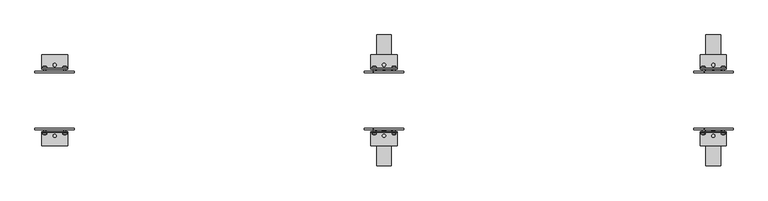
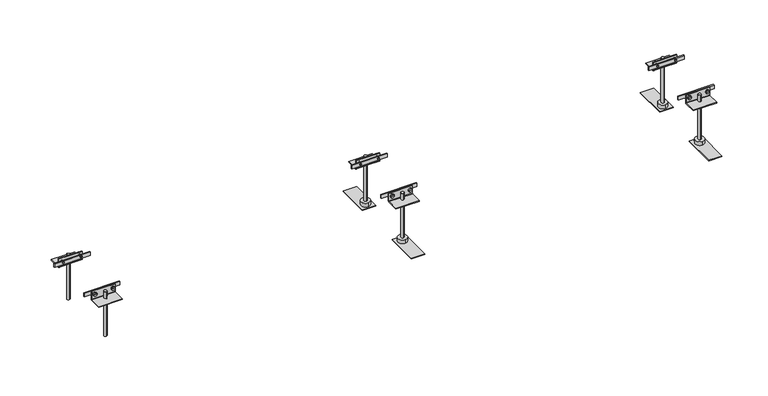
"""IFC4 building model written with IfcOpenShell, lengths in millimetres: proxy geometry, Electrical_Installation_Hager_BKF-Trunking-System-With-Flexible-Screed-Casing-For-Dry-Cleaned-Floors : Nominal Size 150  Length 2.4 m."""

from ifc_helpers import new_model, si_unit, point, frame, frame_2d, origin, place, context, project, spatial, polyline, circle_curve, ellipse_curve, trimmed, segment, composite_curve, outline, extrude, source, transform, mapped, element, save
from ifc_brep_helpers import plane_surface, cylinder_surface, revolved_surface, advanced_brep


def electrical_fixtures_9ab802ce(model_context):
    return source(origin(), model_context, "Body", "SolidModel", [
        advanced_brep(
        [(1629.0575247, -81.6418922, 3.3), (1619.4769168, -81.6418922, 3.3), (1619.4769168, -79.7, 3.3), (1629.0575247, -79.7, 3.3), (1621.7042517, -79.7, 3.3), (1626.8301898, -79.7, 3.3), (1621.7042517, -67.7, 3.3), (1626.8301898, -67.7, 3.3), (1624.2672208, -67.7, 3.3), (1624.2672208, -83.3479209, 3.3)],
        [
            (0, 1, circle_curve(frame((1624.2672208, -81.6418922, 3.3), z_axis=(0.0, 1.0, 0.0), x_axis=(-1.0, 0.0, 0.0)), 4.790304)),
            (1, 2),
            (2, 3, circle_curve(frame((1624.2672208, -79.7, 3.3), z_axis=(0.0, -1.0, 0.0), x_axis=(-1.0, 0.0, 0.0)), 4.790304)),
            (3, 0),
            (1, 0, circle_curve(frame((1624.2672208, -81.6418922, 3.3), z_axis=(0.0, 1.0, 0.0), x_axis=(-1.0, 0.0, 0.0)), 4.790304)),
            (3, 2, circle_curve(frame((1624.2672208, -79.7, 3.3), z_axis=(0.0, -1.0, 0.0), x_axis=(-1.0, 0.0, 0.0)), 4.790304)),
            (2, 4),
            (4, 5, circle_curve(frame((1624.2672208, -79.7, 3.3), z_axis=(0.0, -1.0, 0.0), x_axis=(-1.0, 0.0, 0.0)), 2.562969)),
            (5, 3),
            (5, 4, circle_curve(frame((1624.2672208, -79.7, 3.3), z_axis=(0.0, -1.0, 0.0), x_axis=(-1.0, 0.0, 0.0)), 2.562969)),
            (4, 6),
            (6, 7, circle_curve(frame((1624.2672208, -67.7, 3.3), z_axis=(0.0, -1.0, 0.0), x_axis=(-1.0, 0.0, 0.0)), 2.562969)),
            (7, 5),
            (7, 6, circle_curve(frame((1624.2672208, -67.7, 3.3), z_axis=(0.0, -1.0, 0.0), x_axis=(-1.0, 0.0, 0.0)), 2.562969)),
            (6, 8),
            (8, 7),
            (9, 1, circle_curve(frame((1624.2353142, -75.8592246, 3.3), z_axis=(0.0, 0.0, -1.0), x_axis=(-1.0, 0.0, 0.0)), 7.4887643)),
            (0, 9, circle_curve(frame((1624.2991274, -75.8592246, 3.3), z_axis=(0.0, 0.0, -1.0), x_axis=(1.0, 0.0, 0.0)), 7.4887643)),
        ],
        [
            cylinder_surface(frame((1624.2672208, -79.2950786, 3.3), z_axis=(0.0, -1.0, 0.0), x_axis=(-1.0, 0.0, 0.0)), 4.790304),
            plane_surface(frame((1624.2672208, -79.7, 3.3), z_axis=(0.0, 1.0, 0.0), x_axis=(-1.0, 0.0, 0.0))),
            cylinder_surface(frame((1624.2672208, -79.2950786, 3.3), z_axis=(0.0, -1.0, 0.0), x_axis=(-1.0, 0.0, 0.0)), 2.562969),
            plane_surface(frame((1624.2672208, -67.7, 3.3), z_axis=(0.0, 1.0, 0.0), x_axis=(-1.0, 0.0, 0.0))),
            revolved_surface(trimmed(ellipse_curve(frame((1624.2353142, -75.8592246, 3.3), z_axis=(0.0, 0.0, 1.0), x_axis=(-1.0, 0.0, 0.0)), 7.4887643, 7.4887643), [point((1619.4769168, -81.6418922, 3.3))], [point((1624.2672208, -83.3479209, 3.3))], True, "CARTESIAN"), (1624.2672208, -79.2950786, 3.3), (0.0, -1.0, 0.0)),
        ],
        [
            (0, [[1, 2, 3, 4]]),
            (0, [[5, -4, 6, -2]]),
            (1, [[-3, 7, 8, 9]]),
            (1, [[-6, -9, 10, -7]]),
            (2, [[-8, 11, 12, 13]]),
            (2, [[-10, -13, 14, -11]]),
            (3, [[-12, 15, 16]]),
            (3, [[-14, -16, -15]]),
            (4, [[17, -1, 18]]),
            (4, [[-18, -5, -17]]),
        ],
    ),
        advanced_brep(
        [(1580.790304, -81.6418922, 3.3), (1571.209696, -81.6418922, 3.3), (1571.209696, -79.7, 3.3), (1580.790304, -79.7, 3.3), (1573.437031, -79.7, 3.3), (1578.562969, -79.7, 3.3), (1573.437031, -67.7, 3.3), (1578.562969, -67.7, 3.3), (1576.0, -67.7, 3.3), (1576.0, -83.3479209, 3.3)],
        [
            (0, 1, circle_curve(frame((1576.0, -81.6418922, 3.3), z_axis=(0.0, 1.0, 0.0), x_axis=(-1.0, 0.0, 0.0)), 4.790304)),
            (1, 2),
            (2, 3, circle_curve(frame((1576.0, -79.7, 3.3), z_axis=(0.0, -1.0, 0.0), x_axis=(-1.0, 0.0, 0.0)), 4.790304)),
            (3, 0),
            (1, 0, circle_curve(frame((1576.0, -81.6418922, 3.3), z_axis=(0.0, 1.0, 0.0), x_axis=(-1.0, 0.0, 0.0)), 4.790304)),
            (3, 2, circle_curve(frame((1576.0, -79.7, 3.3), z_axis=(0.0, -1.0, 0.0), x_axis=(-1.0, 0.0, 0.0)), 4.790304)),
            (2, 4),
            (4, 5, circle_curve(frame((1576.0, -79.7, 3.3), z_axis=(0.0, -1.0, 0.0), x_axis=(-1.0, 0.0, 0.0)), 2.562969)),
            (5, 3),
            (5, 4, circle_curve(frame((1576.0, -79.7, 3.3), z_axis=(0.0, -1.0, 0.0), x_axis=(-1.0, 0.0, 0.0)), 2.562969)),
            (4, 6),
            (6, 7, circle_curve(frame((1576.0, -67.7, 3.3), z_axis=(0.0, -1.0, 0.0), x_axis=(-1.0, 0.0, 0.0)), 2.562969)),
            (7, 5),
            (7, 6, circle_curve(frame((1576.0, -67.7, 3.3), z_axis=(0.0, -1.0, 0.0), x_axis=(-1.0, 0.0, 0.0)), 2.562969)),
            (6, 8),
            (8, 7),
            (9, 1, circle_curve(frame((1575.9680934, -75.8592246, 3.3), z_axis=(0.0, 0.0, -1.0), x_axis=(-1.0, 0.0, 0.0)), 7.4887643)),
            (0, 9, circle_curve(frame((1576.0319066, -75.8592246, 3.3), z_axis=(0.0, 0.0, -1.0), x_axis=(1.0, 0.0, 0.0)), 7.4887643)),
        ],
        [
            cylinder_surface(frame((1576.0, -79.2950786, 3.3), z_axis=(0.0, -1.0, 0.0), x_axis=(-1.0, 0.0, 0.0)), 4.790304),
            plane_surface(frame((1576.0, -79.7, 3.3), z_axis=(0.0, 1.0, 0.0), x_axis=(-1.0, 0.0, 0.0))),
            cylinder_surface(frame((1576.0, -79.2950786, 3.3), z_axis=(0.0, -1.0, 0.0), x_axis=(-1.0, 0.0, 0.0)), 2.562969),
            plane_surface(frame((1576.0, -67.7, 3.3), z_axis=(0.0, 1.0, 0.0), x_axis=(-1.0, 0.0, 0.0))),
            revolved_surface(trimmed(ellipse_curve(frame((1575.9680934, -75.8592246, 3.3), z_axis=(0.0, 0.0, 1.0), x_axis=(-1.0, 0.0, 0.0)), 7.4887643, 7.4887643), [point((1571.209696, -81.6418922, 3.3))], [point((1576.0, -83.3479209, 3.3))], True, "CARTESIAN"), (1576.0, -79.2950786, 3.3), (0.0, -1.0, 0.0)),
        ],
        [
            (0, [[1, 2, 3, 4]]),
            (0, [[5, -4, 6, -2]]),
            (1, [[-3, 7, 8, 9]]),
            (1, [[-6, -9, 10, -7]]),
            (2, [[-8, 11, 12, 13]]),
            (2, [[-10, -13, 14, -11]]),
            (3, [[-12, 15, 16]]),
            (3, [[-14, -16, -15]]),
            (4, [[17, -1, 18]]),
            (4, [[-18, -5, -17]]),
        ],
    ),
        advanced_brep(
        [(1629.0575247, 79.7, 3.3), (1619.4769168, 79.7, 3.3), (1619.4769168, 81.6418922, 3.3), (1629.0575247, 81.6418922, 3.3), (1626.8301898, 79.7, 3.3), (1621.7042517, 79.7, 3.3), (1626.8301898, 67.7, 3.3), (1621.7042517, 67.7, 3.3), (1624.2672208, 67.7, 3.3), (1624.2672208, 83.3479209, 3.3)],
        [
            (0, 1, circle_curve(frame((1624.2672208, 79.7, 3.3), z_axis=(0.0, 1.0, 0.0), x_axis=(-1.0, 0.0, 0.0)), 4.790304)),
            (1, 2),
            (2, 3, circle_curve(frame((1624.2672208, 81.6418922, 3.3), z_axis=(0.0, -1.0, 0.0), x_axis=(-1.0, 0.0, 0.0)), 4.790304)),
            (3, 0),
            (1, 0, circle_curve(frame((1624.2672208, 79.7, 3.3), z_axis=(0.0, 1.0, 0.0), x_axis=(-1.0, 0.0, 0.0)), 4.790304)),
            (3, 2, circle_curve(frame((1624.2672208, 81.6418922, 3.3), z_axis=(0.0, -1.0, 0.0), x_axis=(-1.0, 0.0, 0.0)), 4.790304)),
            (4, 5, circle_curve(frame((1624.2672208, 79.7, 3.3), z_axis=(0.0, 1.0, 0.0), x_axis=(-1.0, 0.0, 0.0)), 2.562969)),
            (5, 1),
            (0, 4),
            (5, 4, circle_curve(frame((1624.2672208, 79.7, 3.3), z_axis=(0.0, 1.0, 0.0), x_axis=(-1.0, 0.0, 0.0)), 2.562969)),
            (6, 7, circle_curve(frame((1624.2672208, 67.7, 3.3), z_axis=(0.0, 1.0, 0.0), x_axis=(-1.0, 0.0, 0.0)), 2.562969)),
            (7, 5),
            (4, 6),
            (7, 6, circle_curve(frame((1624.2672208, 67.7, 3.3), z_axis=(0.0, 1.0, 0.0), x_axis=(-1.0, 0.0, 0.0)), 2.562969)),
            (8, 7),
            (6, 8),
            (2, 9, circle_curve(frame((1624.2353142, 75.8592246, 3.3), z_axis=(0.0, 0.0, -1.0), x_axis=(-1.0, 0.0, 0.0)), 7.4887643)),
            (9, 3, circle_curve(frame((1624.2991274, 75.8592246, 3.3), z_axis=(0.0, 0.0, -1.0), x_axis=(1.0, 0.0, 0.0)), 7.4887643)),
        ],
        [
            cylinder_surface(frame((1624.2672208, 79.2950786, 3.3), z_axis=(0.0, -1.0, 0.0), x_axis=(-1.0, 0.0, 0.0)), 4.790304),
            plane_surface(frame((1624.2672208, 79.7, 3.3), z_axis=(0.0, -1.0, 0.0), x_axis=(-1.0, 0.0, 0.0))),
            cylinder_surface(frame((1624.2672208, 79.2950786, 3.3), z_axis=(0.0, -1.0, 0.0), x_axis=(-1.0, 0.0, 0.0)), 2.562969),
            plane_surface(frame((1624.2672208, 67.7, 3.3), z_axis=(0.0, -1.0, 0.0), x_axis=(-1.0, 0.0, 0.0))),
            revolved_surface(trimmed(ellipse_curve(frame((1624.2353142, 75.8592246, 3.3), z_axis=(0.0, 0.0, 1.0), x_axis=(-1.0, 0.0, 0.0)), 7.4887643, 7.4887643), [point((1624.2672208, 83.3479209, 3.3))], [point((1619.4769168, 81.6418922, 3.3))], True, "CARTESIAN"), (1624.2672208, 79.2950786, 3.3), (0.0, -1.0, 0.0)),
        ],
        [
            (0, [[1, 2, 3, 4]]),
            (0, [[5, -4, 6, -2]]),
            (1, [[7, 8, -1, 9]]),
            (1, [[10, -9, -5, -8]]),
            (2, [[11, 12, -7, 13]]),
            (2, [[14, -13, -10, -12]]),
            (3, [[15, -11, 16]]),
            (3, [[-16, -14, -15]]),
            (4, [[-3, 17, 18]]),
            (4, [[-6, -18, -17]]),
        ],
    ),
        advanced_brep(
        [(1580.790304, 79.7, 3.3), (1571.209696, 79.7, 3.3), (1571.209696, 81.6418922, 3.3), (1580.790304, 81.6418922, 3.3), (1578.562969, 79.7, 3.3), (1573.437031, 79.7, 3.3), (1578.562969, 67.7, 3.3), (1573.437031, 67.7, 3.3), (1576.0, 67.7, 3.3), (1576.0, 83.3479209, 3.3)],
        [
            (0, 1, circle_curve(frame((1576.0, 79.7, 3.3), z_axis=(0.0, 1.0, 0.0), x_axis=(-1.0, 0.0, 0.0)), 4.790304)),
            (1, 2),
            (2, 3, circle_curve(frame((1576.0, 81.6418922, 3.3), z_axis=(0.0, -1.0, 0.0), x_axis=(-1.0, 0.0, 0.0)), 4.790304)),
            (3, 0),
            (1, 0, circle_curve(frame((1576.0, 79.7, 3.3), z_axis=(0.0, 1.0, 0.0), x_axis=(-1.0, 0.0, 0.0)), 4.790304)),
            (3, 2, circle_curve(frame((1576.0, 81.6418922, 3.3), z_axis=(0.0, -1.0, 0.0), x_axis=(-1.0, 0.0, 0.0)), 4.790304)),
            (4, 5, circle_curve(frame((1576.0, 79.7, 3.3), z_axis=(0.0, 1.0, 0.0), x_axis=(-1.0, 0.0, 0.0)), 2.562969)),
            (5, 1),
            (0, 4),
            (5, 4, circle_curve(frame((1576.0, 79.7, 3.3), z_axis=(0.0, 1.0, 0.0), x_axis=(-1.0, 0.0, 0.0)), 2.562969)),
            (6, 7, circle_curve(frame((1576.0, 67.7, 3.3), z_axis=(0.0, 1.0, 0.0), x_axis=(-1.0, 0.0, 0.0)), 2.562969)),
            (7, 5),
            (4, 6),
            (7, 6, circle_curve(frame((1576.0, 67.7, 3.3), z_axis=(0.0, 1.0, 0.0), x_axis=(-1.0, 0.0, 0.0)), 2.562969)),
            (8, 7),
            (6, 8),
            (2, 9, circle_curve(frame((1575.9680934, 75.8592246, 3.3), z_axis=(0.0, 0.0, -1.0), x_axis=(-1.0, 0.0, 0.0)), 7.4887643)),
            (9, 3, circle_curve(frame((1576.0319066, 75.8592246, 3.3), z_axis=(0.0, 0.0, -1.0), x_axis=(1.0, 0.0, 0.0)), 7.4887643)),
        ],
        [
            cylinder_surface(frame((1576.0, 79.2950786, 3.3), z_axis=(0.0, -1.0, 0.0), x_axis=(-1.0, 0.0, 0.0)), 4.790304),
            plane_surface(frame((1576.0, 79.7, 3.3), z_axis=(0.0, -1.0, 0.0), x_axis=(-1.0, 0.0, 0.0))),
            cylinder_surface(frame((1576.0, 79.2950786, 3.3), z_axis=(0.0, -1.0, 0.0), x_axis=(-1.0, 0.0, 0.0)), 2.562969),
            plane_surface(frame((1576.0, 67.7, 3.3), z_axis=(0.0, -1.0, 0.0), x_axis=(-1.0, 0.0, 0.0))),
            revolved_surface(trimmed(ellipse_curve(frame((1575.9680934, 75.8592246, 3.3), z_axis=(0.0, 0.0, 1.0), x_axis=(-1.0, 0.0, 0.0)), 7.4887643, 7.4887643), [point((1576.0, 83.3479209, 3.3))], [point((1571.209696, 81.6418922, 3.3))], True, "CARTESIAN"), (1576.0, 79.2950786, 3.3), (0.0, -1.0, 0.0)),
        ],
        [
            (0, [[1, 2, 3, 4]]),
            (0, [[5, -4, 6, -2]]),
            (1, [[7, 8, -1, 9]]),
            (1, [[10, -9, -5, -8]]),
            (2, [[11, 12, -7, 13]]),
            (2, [[14, -13, -10, -12]]),
            (3, [[15, -11, 16]]),
            (3, [[-16, -14, -15]]),
            (4, [[-3, 17, 18]]),
            (4, [[-6, -18, -17]]),
        ],
    ),
        extrude(outline(polyline([(1552.0, 67.7), (1552.0, 70.7), (1648.0, 70.7), (1648.0, 67.7), (1552.0, 67.7)])), frame((0.0, 0.0, -1.7), z_axis=(0.0, 0.0, 1.0), x_axis=(1.0, 0.0, 0.0)), (0.0, 0.0, 1.0), 10.0),
        extrude(outline(polyline([(1552.0, -70.7), (1552.0, -67.7), (1648.0, -67.7), (1648.0, -70.7), (1552.0, -70.7)])), frame((0.0, 0.0, -1.7), z_axis=(0.0, 0.0, 1.0), x_axis=(1.0, 0.0, 0.0)), (0.0, 0.0, 1.0), 10.0),
        extrude(outline(composite_curve([segment(polyline([(75.6, 11.7), (77.6, 11.7), (77.6, -10.3088822)]), True, "CONTINUOUS"), segment(trimmed(circle_curve(frame_2d((78.5911178, -10.3088822)), 0.9911178), [point((77.6, -10.3088822))], [point((78.5911178, -11.3))], True, "CARTESIAN"), True, "CONTINUOUS"), segment(polyline([(78.5911178, -11.3), (110.6, -11.3), (110.6, -13.3), (78.6002521, -13.3)]), True, "CONTINUOUS"), segment(trimmed(circle_curve(frame_2d((78.6002521, -10.2997479)), 3.0002521), [point((78.6002521, -13.3))], [point((75.6, -10.2997479))], False, "CARTESIAN"), True, "CONTINUOUS"), segment(polyline([(75.6, -10.2997479), (75.6, 11.7)]), True, "CONTINUOUS")], self_intersect=False)), frame((1568.3, 0.0, 0.0), z_axis=(1.0, 0.0, 0.0), x_axis=(0.0, 1.0, 0.0)), (0.0, 0.0, 1.0), 63.4),
        extrude(outline(composite_curve([segment(polyline([(-75.6, 11.7), (-75.6, -10.2997479)]), True, "CONTINUOUS"), segment(trimmed(circle_curve(frame_2d((-78.6002521, -10.2997479)), 3.0002521), [point((-75.6, -10.2997479))], [point((-78.6002521, -13.3))], False, "CARTESIAN"), True, "CONTINUOUS"), segment(polyline([(-78.6002521, -13.3), (-110.6, -13.3), (-110.6, -11.3), (-78.5911178, -11.3)]), True, "CONTINUOUS"), segment(trimmed(circle_curve(frame_2d((-78.5911178, -10.3088822)), 0.9911178), [point((-78.5911178, -11.3))], [point((-77.6, -10.3088822))], True, "CARTESIAN"), True, "CONTINUOUS"), segment(polyline([(-77.6, -10.3088822), (-77.6, 11.7), (-75.6, 11.7)]), True, "CONTINUOUS")], self_intersect=False)), frame((1568.3, 0.0, 0.0), z_axis=(1.0, 0.0, 0.0), x_axis=(0.0, 1.0, 0.0)), (0.0, 0.0, 1.0), 63.4),
        extrude(outline(composite_curve([segment(trimmed(circle_curve(frame_2d((1600.0, 86.1712378)), 3.9923162), [point((1600.0, 90.163554))], [point((1600.0, 82.1789216))], False, "CARTESIAN"), True, "CONTINUOUS"), segment(trimmed(circle_curve(frame_2d((1600.0, 86.1712378)), 3.9923162), [point((1600.0, 82.1789216))], [point((1600.0, 90.163554))], False, "CARTESIAN"), True, "CONTINUOUS")], self_intersect=False)), frame((0.0, 0.0, -119.0), z_axis=(0.0, 0.0, 1.0), x_axis=(1.0, 0.0, 0.0)), (0.0, 0.0, 1.0), 126.8),
        extrude(outline(composite_curve([segment(trimmed(circle_curve(frame_2d((1600.0, -86.0787011)), 3.991847), [point((1600.0, -82.0868541))], [point((1600.0, -90.0705482))], False, "CARTESIAN"), True, "CONTINUOUS"), segment(trimmed(circle_curve(frame_2d((1600.0, -86.0787011)), 3.991847), [point((1600.0, -90.0705482))], [point((1600.0, -82.0868541))], False, "CARTESIAN"), True, "CONTINUOUS")], self_intersect=False)), frame((0.0, 0.0, -119.0), z_axis=(0.0, 0.0, 1.0), x_axis=(1.0, 0.0, 0.0)), (0.0, 0.0, 1.0), 126.8),
        extrude(outline(composite_curve([segment(trimmed(circle_curve(frame_2d((1600.0, 86.1652527)), 12.0), [point((1600.0, 98.1652527))], [point((1600.0, 74.1652527))], False, "CARTESIAN"), True, "CONTINUOUS"), segment(trimmed(circle_curve(frame_2d((1600.0, 86.1652527)), 12.0), [point((1600.0, 74.1652527))], [point((1600.0, 98.1652527))], False, "CARTESIAN"), True, "CONTINUOUS")], self_intersect=False)), frame((0.0, 0.0, -129.7), z_axis=(0.0, 0.0, 1.0), x_axis=(1.0, 0.0, 0.0)), (0.0, 0.0, 1.0), 10.7),
        extrude(outline(composite_curve([segment(trimmed(circle_curve(frame_2d((1600.0, -86.112037)), 12.0), [point((1600.0, -74.112037))], [point((1600.0, -98.112037))], False, "CARTESIAN"), True, "CONTINUOUS"), segment(trimmed(circle_curve(frame_2d((1600.0, -86.112037)), 12.0), [point((1600.0, -98.112037))], [point((1600.0, -74.112037))], False, "CARTESIAN"), True, "CONTINUOUS")], self_intersect=False)), frame((0.0, 0.0, -129.7), z_axis=(0.0, 0.0, 1.0), x_axis=(1.0, 0.0, 0.0)), (0.0, 0.0, 1.0), 10.7),
        extrude(outline(polyline([(1618.0, 69.1), (1582.0, 69.1), (1582.0, 159.1), (1618.0, 159.1), (1618.0, 69.1)])), frame((0.0, 0.0, -131.2), z_axis=(0.0, 0.0, 1.0), x_axis=(1.0, 0.0, 0.0)), (0.0, 0.0, 1.0), 1.5),
        extrude(outline(polyline([(1618.0, -159.1), (1582.0, -159.1), (1582.0, -69.1), (1618.0, -69.1), (1618.0, -159.1)])), frame((0.0, 0.0, -131.2), z_axis=(0.0, 0.0, 1.0), x_axis=(1.0, 0.0, 0.0)), (0.0, 0.0, 1.0), 1.5),
        advanced_brep(
        [(829.0575247, -81.6418922, 3.3), (819.4769168, -81.6418922, 3.3), (819.4769168, -79.7, 3.3), (829.0575247, -79.7, 3.3), (821.7042517, -79.7, 3.3), (826.8301898, -79.7, 3.3), (821.7042517, -67.7, 3.3), (826.8301898, -67.7, 3.3), (824.2672208, -67.7, 3.3), (824.2672208, -83.3479209, 3.3)],
        [
            (0, 1, circle_curve(frame((824.2672208, -81.6418922, 3.3), z_axis=(0.0, 1.0, 0.0), x_axis=(-1.0, 0.0, 0.0)), 4.790304)),
            (1, 2),
            (2, 3, circle_curve(frame((824.2672208, -79.7, 3.3), z_axis=(0.0, -1.0, 0.0), x_axis=(-1.0, 0.0, 0.0)), 4.790304)),
            (3, 0),
            (1, 0, circle_curve(frame((824.2672208, -81.6418922, 3.3), z_axis=(0.0, 1.0, 0.0), x_axis=(-1.0, 0.0, 0.0)), 4.790304)),
            (3, 2, circle_curve(frame((824.2672208, -79.7, 3.3), z_axis=(0.0, -1.0, 0.0), x_axis=(-1.0, 0.0, 0.0)), 4.790304)),
            (2, 4),
            (4, 5, circle_curve(frame((824.2672208, -79.7, 3.3), z_axis=(0.0, -1.0, 0.0), x_axis=(-1.0, 0.0, 0.0)), 2.562969)),
            (5, 3),
            (5, 4, circle_curve(frame((824.2672208, -79.7, 3.3), z_axis=(0.0, -1.0, 0.0), x_axis=(-1.0, 0.0, 0.0)), 2.562969)),
            (4, 6),
            (6, 7, circle_curve(frame((824.2672208, -67.7, 3.3), z_axis=(0.0, -1.0, 0.0), x_axis=(-1.0, 0.0, 0.0)), 2.562969)),
            (7, 5),
            (7, 6, circle_curve(frame((824.2672208, -67.7, 3.3), z_axis=(0.0, -1.0, 0.0), x_axis=(-1.0, 0.0, 0.0)), 2.562969)),
            (6, 8),
            (8, 7),
            (9, 1, circle_curve(frame((824.2353142, -75.8592246, 3.3), z_axis=(0.0, 0.0, -1.0), x_axis=(-1.0, 0.0, 0.0)), 7.4887643)),
            (0, 9, circle_curve(frame((824.2991274, -75.8592246, 3.3), z_axis=(0.0, 0.0, -1.0), x_axis=(1.0, 0.0, 0.0)), 7.4887643)),
        ],
        [
            cylinder_surface(frame((824.2672208, -79.2950786, 3.3), z_axis=(0.0, -1.0, 0.0), x_axis=(-1.0, 0.0, 0.0)), 4.790304),
            plane_surface(frame((824.2672208, -79.7, 3.3), z_axis=(0.0, 1.0, 0.0), x_axis=(-1.0, 0.0, 0.0))),
            cylinder_surface(frame((824.2672208, -79.2950786, 3.3), z_axis=(0.0, -1.0, 0.0), x_axis=(-1.0, 0.0, 0.0)), 2.562969),
            plane_surface(frame((824.2672208, -67.7, 3.3), z_axis=(0.0, 1.0, 0.0), x_axis=(-1.0, 0.0, 0.0))),
            revolved_surface(trimmed(ellipse_curve(frame((824.2353142, -75.8592246, 3.3), z_axis=(0.0, 0.0, 1.0), x_axis=(-1.0, 0.0, 0.0)), 7.4887643, 7.4887643), [point((819.4769168, -81.6418922, 3.3))], [point((824.2672208, -83.3479209, 3.3))], True, "CARTESIAN"), (824.2672208, -79.2950786, 3.3), (0.0, -1.0, 0.0)),
        ],
        [
            (0, [[1, 2, 3, 4]]),
            (0, [[5, -4, 6, -2]]),
            (1, [[-3, 7, 8, 9]]),
            (1, [[-6, -9, 10, -7]]),
            (2, [[-8, 11, 12, 13]]),
            (2, [[-10, -13, 14, -11]]),
            (3, [[-12, 15, 16]]),
            (3, [[-14, -16, -15]]),
            (4, [[17, -1, 18]]),
            (4, [[-18, -5, -17]]),
        ],
    ),
        advanced_brep(
        [(780.790304, -81.6418922, 3.3), (771.209696, -81.6418922, 3.3), (771.209696, -79.7, 3.3), (780.790304, -79.7, 3.3), (773.437031, -79.7, 3.3), (778.562969, -79.7, 3.3), (773.437031, -67.7, 3.3), (778.562969, -67.7, 3.3), (776.0, -67.7, 3.3), (776.0, -83.3479209, 3.3)],
        [
            (0, 1, circle_curve(frame((776.0, -81.6418922, 3.3), z_axis=(0.0, 1.0, 0.0), x_axis=(-1.0, 0.0, 0.0)), 4.790304)),
            (1, 2),
            (2, 3, circle_curve(frame((776.0, -79.7, 3.3), z_axis=(0.0, -1.0, 0.0), x_axis=(-1.0, 0.0, 0.0)), 4.790304)),
            (3, 0),
            (1, 0, circle_curve(frame((776.0, -81.6418922, 3.3), z_axis=(0.0, 1.0, 0.0), x_axis=(-1.0, 0.0, 0.0)), 4.790304)),
            (3, 2, circle_curve(frame((776.0, -79.7, 3.3), z_axis=(0.0, -1.0, 0.0), x_axis=(-1.0, 0.0, 0.0)), 4.790304)),
            (2, 4),
            (4, 5, circle_curve(frame((776.0, -79.7, 3.3), z_axis=(0.0, -1.0, 0.0), x_axis=(-1.0, 0.0, 0.0)), 2.562969)),
            (5, 3),
            (5, 4, circle_curve(frame((776.0, -79.7, 3.3), z_axis=(0.0, -1.0, 0.0), x_axis=(-1.0, 0.0, 0.0)), 2.562969)),
            (4, 6),
            (6, 7, circle_curve(frame((776.0, -67.7, 3.3), z_axis=(0.0, -1.0, 0.0), x_axis=(-1.0, 0.0, 0.0)), 2.562969)),
            (7, 5),
            (7, 6, circle_curve(frame((776.0, -67.7, 3.3), z_axis=(0.0, -1.0, 0.0), x_axis=(-1.0, 0.0, 0.0)), 2.562969)),
            (6, 8),
            (8, 7),
            (9, 1, circle_curve(frame((775.9680934, -75.8592246, 3.3), z_axis=(0.0, 0.0, -1.0), x_axis=(-1.0, 0.0, 0.0)), 7.4887643)),
            (0, 9, circle_curve(frame((776.0319066, -75.8592246, 3.3), z_axis=(0.0, 0.0, -1.0), x_axis=(1.0, 0.0, 0.0)), 7.4887643)),
        ],
        [
            cylinder_surface(frame((776.0, -79.2950786, 3.3), z_axis=(0.0, -1.0, 0.0), x_axis=(-1.0, 0.0, 0.0)), 4.790304),
            plane_surface(frame((776.0, -79.7, 3.3), z_axis=(0.0, 1.0, 0.0), x_axis=(-1.0, 0.0, 0.0))),
            cylinder_surface(frame((776.0, -79.2950786, 3.3), z_axis=(0.0, -1.0, 0.0), x_axis=(-1.0, 0.0, 0.0)), 2.562969),
            plane_surface(frame((776.0, -67.7, 3.3), z_axis=(0.0, 1.0, 0.0), x_axis=(-1.0, 0.0, 0.0))),
            revolved_surface(trimmed(ellipse_curve(frame((775.9680934, -75.8592246, 3.3), z_axis=(0.0, 0.0, 1.0), x_axis=(-1.0, 0.0, 0.0)), 7.4887643, 7.4887643), [point((771.209696, -81.6418922, 3.3))], [point((776.0, -83.3479209, 3.3))], True, "CARTESIAN"), (776.0, -79.2950786, 3.3), (0.0, -1.0, 0.0)),
        ],
        [
            (0, [[1, 2, 3, 4]]),
            (0, [[5, -4, 6, -2]]),
            (1, [[-3, 7, 8, 9]]),
            (1, [[-6, -9, 10, -7]]),
            (2, [[-8, 11, 12, 13]]),
            (2, [[-10, -13, 14, -11]]),
            (3, [[-12, 15, 16]]),
            (3, [[-14, -16, -15]]),
            (4, [[17, -1, 18]]),
            (4, [[-18, -5, -17]]),
        ],
    ),
        advanced_brep(
        [(829.0575247, 79.7, 3.3), (819.4769168, 79.7, 3.3), (819.4769168, 81.6418922, 3.3), (829.0575247, 81.6418922, 3.3), (826.8301898, 79.7, 3.3), (821.7042517, 79.7, 3.3), (826.8301898, 67.7, 3.3), (821.7042517, 67.7, 3.3), (824.2672208, 67.7, 3.3), (824.2672208, 83.3479209, 3.3)],
        [
            (0, 1, circle_curve(frame((824.2672208, 79.7, 3.3), z_axis=(0.0, 1.0, 0.0), x_axis=(-1.0, 0.0, 0.0)), 4.790304)),
            (1, 2),
            (2, 3, circle_curve(frame((824.2672208, 81.6418922, 3.3), z_axis=(0.0, -1.0, 0.0), x_axis=(-1.0, 0.0, 0.0)), 4.790304)),
            (3, 0),
            (1, 0, circle_curve(frame((824.2672208, 79.7, 3.3), z_axis=(0.0, 1.0, 0.0), x_axis=(-1.0, 0.0, 0.0)), 4.790304)),
            (3, 2, circle_curve(frame((824.2672208, 81.6418922, 3.3), z_axis=(0.0, -1.0, 0.0), x_axis=(-1.0, 0.0, 0.0)), 4.790304)),
            (4, 5, circle_curve(frame((824.2672208, 79.7, 3.3), z_axis=(0.0, 1.0, 0.0), x_axis=(-1.0, 0.0, 0.0)), 2.562969)),
            (5, 1),
            (0, 4),
            (5, 4, circle_curve(frame((824.2672208, 79.7, 3.3), z_axis=(0.0, 1.0, 0.0), x_axis=(-1.0, 0.0, 0.0)), 2.562969)),
            (6, 7, circle_curve(frame((824.2672208, 67.7, 3.3), z_axis=(0.0, 1.0, 0.0), x_axis=(-1.0, 0.0, 0.0)), 2.562969)),
            (7, 5),
            (4, 6),
            (7, 6, circle_curve(frame((824.2672208, 67.7, 3.3), z_axis=(0.0, 1.0, 0.0), x_axis=(-1.0, 0.0, 0.0)), 2.562969)),
            (8, 7),
            (6, 8),
            (2, 9, circle_curve(frame((824.2353142, 75.8592246, 3.3), z_axis=(0.0, 0.0, -1.0), x_axis=(-1.0, 0.0, 0.0)), 7.4887643)),
            (9, 3, circle_curve(frame((824.2991274, 75.8592246, 3.3), z_axis=(0.0, 0.0, -1.0), x_axis=(1.0, 0.0, 0.0)), 7.4887643)),
        ],
        [
            cylinder_surface(frame((824.2672208, 79.2950786, 3.3), z_axis=(0.0, -1.0, 0.0), x_axis=(-1.0, 0.0, 0.0)), 4.790304),
            plane_surface(frame((824.2672208, 79.7, 3.3), z_axis=(0.0, -1.0, 0.0), x_axis=(-1.0, 0.0, 0.0))),
            cylinder_surface(frame((824.2672208, 79.2950786, 3.3), z_axis=(0.0, -1.0, 0.0), x_axis=(-1.0, 0.0, 0.0)), 2.562969),
            plane_surface(frame((824.2672208, 67.7, 3.3), z_axis=(0.0, -1.0, 0.0), x_axis=(-1.0, 0.0, 0.0))),
            revolved_surface(trimmed(ellipse_curve(frame((824.2353142, 75.8592246, 3.3), z_axis=(0.0, 0.0, 1.0), x_axis=(-1.0, 0.0, 0.0)), 7.4887643, 7.4887643), [point((824.2672208, 83.3479209, 3.3))], [point((819.4769168, 81.6418922, 3.3))], True, "CARTESIAN"), (824.2672208, 79.2950786, 3.3), (0.0, -1.0, 0.0)),
        ],
        [
            (0, [[1, 2, 3, 4]]),
            (0, [[5, -4, 6, -2]]),
            (1, [[7, 8, -1, 9]]),
            (1, [[10, -9, -5, -8]]),
            (2, [[11, 12, -7, 13]]),
            (2, [[14, -13, -10, -12]]),
            (3, [[15, -11, 16]]),
            (3, [[-16, -14, -15]]),
            (4, [[-3, 17, 18]]),
            (4, [[-6, -18, -17]]),
        ],
    ),
        advanced_brep(
        [(780.790304, 79.7, 3.3), (771.209696, 79.7, 3.3), (771.209696, 81.6418922, 3.3), (780.790304, 81.6418922, 3.3), (778.562969, 79.7, 3.3), (773.437031, 79.7, 3.3), (778.562969, 67.7, 3.3), (773.437031, 67.7, 3.3), (776.0, 67.7, 3.3), (776.0, 83.3479209, 3.3)],
        [
            (0, 1, circle_curve(frame((776.0, 79.7, 3.3), z_axis=(0.0, 1.0, 0.0), x_axis=(-1.0, 0.0, 0.0)), 4.790304)),
            (1, 2),
            (2, 3, circle_curve(frame((776.0, 81.6418922, 3.3), z_axis=(0.0, -1.0, 0.0), x_axis=(-1.0, 0.0, 0.0)), 4.790304)),
            (3, 0),
            (1, 0, circle_curve(frame((776.0, 79.7, 3.3), z_axis=(0.0, 1.0, 0.0), x_axis=(-1.0, 0.0, 0.0)), 4.790304)),
            (3, 2, circle_curve(frame((776.0, 81.6418922, 3.3), z_axis=(0.0, -1.0, 0.0), x_axis=(-1.0, 0.0, 0.0)), 4.790304)),
            (4, 5, circle_curve(frame((776.0, 79.7, 3.3), z_axis=(0.0, 1.0, 0.0), x_axis=(-1.0, 0.0, 0.0)), 2.562969)),
            (5, 1),
            (0, 4),
            (5, 4, circle_curve(frame((776.0, 79.7, 3.3), z_axis=(0.0, 1.0, 0.0), x_axis=(-1.0, 0.0, 0.0)), 2.562969)),
            (6, 7, circle_curve(frame((776.0, 67.7, 3.3), z_axis=(0.0, 1.0, 0.0), x_axis=(-1.0, 0.0, 0.0)), 2.562969)),
            (7, 5),
            (4, 6),
            (7, 6, circle_curve(frame((776.0, 67.7, 3.3), z_axis=(0.0, 1.0, 0.0), x_axis=(-1.0, 0.0, 0.0)), 2.562969)),
            (8, 7),
            (6, 8),
            (2, 9, circle_curve(frame((775.9680934, 75.8592246, 3.3), z_axis=(0.0, 0.0, -1.0), x_axis=(-1.0, 0.0, 0.0)), 7.4887643)),
            (9, 3, circle_curve(frame((776.0319066, 75.8592246, 3.3), z_axis=(0.0, 0.0, -1.0), x_axis=(1.0, 0.0, 0.0)), 7.4887643)),
        ],
        [
            cylinder_surface(frame((776.0, 79.2950786, 3.3), z_axis=(0.0, -1.0, 0.0), x_axis=(-1.0, 0.0, 0.0)), 4.790304),
            plane_surface(frame((776.0, 79.7, 3.3), z_axis=(0.0, -1.0, 0.0), x_axis=(-1.0, 0.0, 0.0))),
            cylinder_surface(frame((776.0, 79.2950786, 3.3), z_axis=(0.0, -1.0, 0.0), x_axis=(-1.0, 0.0, 0.0)), 2.562969),
            plane_surface(frame((776.0, 67.7, 3.3), z_axis=(0.0, -1.0, 0.0), x_axis=(-1.0, 0.0, 0.0))),
            revolved_surface(trimmed(ellipse_curve(frame((775.9680934, 75.8592246, 3.3), z_axis=(0.0, 0.0, 1.0), x_axis=(-1.0, 0.0, 0.0)), 7.4887643, 7.4887643), [point((776.0, 83.3479209, 3.3))], [point((771.209696, 81.6418922, 3.3))], True, "CARTESIAN"), (776.0, 79.2950786, 3.3), (0.0, -1.0, 0.0)),
        ],
        [
            (0, [[1, 2, 3, 4]]),
            (0, [[5, -4, 6, -2]]),
            (1, [[7, 8, -1, 9]]),
            (1, [[10, -9, -5, -8]]),
            (2, [[11, 12, -7, 13]]),
            (2, [[14, -13, -10, -12]]),
            (3, [[15, -11, 16]]),
            (3, [[-16, -14, -15]]),
            (4, [[-3, 17, 18]]),
            (4, [[-6, -18, -17]]),
        ],
    ),
        extrude(outline(polyline([(752.0, 67.7), (752.0, 70.7), (848.0, 70.7), (848.0, 67.7), (752.0, 67.7)])), frame((0.0, 0.0, -1.7), z_axis=(0.0, 0.0, 1.0), x_axis=(1.0, 0.0, 0.0)), (0.0, 0.0, 1.0), 10.0),
        extrude(outline(polyline([(752.0, -70.7), (752.0, -67.7), (848.0, -67.7), (848.0, -70.7), (752.0, -70.7)])), frame((0.0, 0.0, -1.7), z_axis=(0.0, 0.0, 1.0), x_axis=(1.0, 0.0, 0.0)), (0.0, 0.0, 1.0), 10.0),
        extrude(outline(composite_curve([segment(polyline([(75.6, 11.7), (77.6, 11.7), (77.6, -10.3088822)]), True, "CONTINUOUS"), segment(trimmed(circle_curve(frame_2d((78.5911178, -10.3088822)), 0.9911178), [point((77.6, -10.3088822))], [point((78.5911178, -11.3))], True, "CARTESIAN"), True, "CONTINUOUS"), segment(polyline([(78.5911178, -11.3), (110.6, -11.3), (110.6, -13.3), (78.6002521, -13.3)]), True, "CONTINUOUS"), segment(trimmed(circle_curve(frame_2d((78.6002521, -10.2997479)), 3.0002521), [point((78.6002521, -13.3))], [point((75.6, -10.2997479))], False, "CARTESIAN"), True, "CONTINUOUS"), segment(polyline([(75.6, -10.2997479), (75.6, 11.7)]), True, "CONTINUOUS")], self_intersect=False)), frame((768.3, 0.0, 0.0), z_axis=(1.0, 0.0, 0.0), x_axis=(0.0, 1.0, 0.0)), (0.0, 0.0, 1.0), 63.4),
        extrude(outline(composite_curve([segment(polyline([(-75.6, 11.7), (-75.6, -10.2997479)]), True, "CONTINUOUS"), segment(trimmed(circle_curve(frame_2d((-78.6002521, -10.2997479)), 3.0002521), [point((-75.6, -10.2997479))], [point((-78.6002521, -13.3))], False, "CARTESIAN"), True, "CONTINUOUS"), segment(polyline([(-78.6002521, -13.3), (-110.6, -13.3), (-110.6, -11.3), (-78.5911178, -11.3)]), True, "CONTINUOUS"), segment(trimmed(circle_curve(frame_2d((-78.5911178, -10.3088822)), 0.9911178), [point((-78.5911178, -11.3))], [point((-77.6, -10.3088822))], True, "CARTESIAN"), True, "CONTINUOUS"), segment(polyline([(-77.6, -10.3088822), (-77.6, 11.7), (-75.6, 11.7)]), True, "CONTINUOUS")], self_intersect=False)), frame((768.3, 0.0, 0.0), z_axis=(1.0, 0.0, 0.0), x_axis=(0.0, 1.0, 0.0)), (0.0, 0.0, 1.0), 63.4),
        extrude(outline(composite_curve([segment(trimmed(circle_curve(frame_2d((800.0, 86.1712378)), 3.9923162), [point((800.0, 90.163554))], [point((800.0, 82.1789216))], False, "CARTESIAN"), True, "CONTINUOUS"), segment(trimmed(circle_curve(frame_2d((800.0, 86.1712378)), 3.9923162), [point((800.0, 82.1789216))], [point((800.0, 90.163554))], False, "CARTESIAN"), True, "CONTINUOUS")], self_intersect=False)), frame((0.0, 0.0, -119.0), z_axis=(0.0, 0.0, 1.0), x_axis=(1.0, 0.0, 0.0)), (0.0, 0.0, 1.0), 126.8),
        extrude(outline(composite_curve([segment(trimmed(circle_curve(frame_2d((800.0, -86.0787011)), 3.991847), [point((800.0, -82.0868541))], [point((800.0, -90.0705482))], False, "CARTESIAN"), True, "CONTINUOUS"), segment(trimmed(circle_curve(frame_2d((800.0, -86.0787011)), 3.991847), [point((800.0, -90.0705482))], [point((800.0, -82.0868541))], False, "CARTESIAN"), True, "CONTINUOUS")], self_intersect=False)), frame((0.0, 0.0, -119.0), z_axis=(0.0, 0.0, 1.0), x_axis=(1.0, 0.0, 0.0)), (0.0, 0.0, 1.0), 126.8),
        extrude(outline(composite_curve([segment(trimmed(circle_curve(frame_2d((800.0, 86.1652527)), 12.0), [point((800.0, 98.1652527))], [point((800.0, 74.1652527))], False, "CARTESIAN"), True, "CONTINUOUS"), segment(trimmed(circle_curve(frame_2d((800.0, 86.1652527)), 12.0), [point((800.0, 74.1652527))], [point((800.0, 98.1652527))], False, "CARTESIAN"), True, "CONTINUOUS")], self_intersect=False)), frame((0.0, 0.0, -129.7), z_axis=(0.0, 0.0, 1.0), x_axis=(1.0, 0.0, 0.0)), (0.0, 0.0, 1.0), 10.7),
        extrude(outline(composite_curve([segment(trimmed(circle_curve(frame_2d((800.0, -86.112037)), 12.0), [point((800.0, -74.112037))], [point((800.0, -98.112037))], False, "CARTESIAN"), True, "CONTINUOUS"), segment(trimmed(circle_curve(frame_2d((800.0, -86.112037)), 12.0), [point((800.0, -98.112037))], [point((800.0, -74.112037))], False, "CARTESIAN"), True, "CONTINUOUS")], self_intersect=False)), frame((0.0, 0.0, -129.7), z_axis=(0.0, 0.0, 1.0), x_axis=(1.0, 0.0, 0.0)), (0.0, 0.0, 1.0), 10.7),
        extrude(outline(polyline([(818.0, 69.1), (782.0, 69.1), (782.0, 159.1), (818.0, 159.1), (818.0, 69.1)])), frame((0.0, 0.0, -131.2), z_axis=(0.0, 0.0, 1.0), x_axis=(1.0, 0.0, 0.0)), (0.0, 0.0, 1.0), 1.5),
        extrude(outline(polyline([(818.0, -159.1), (782.0, -159.1), (782.0, -69.1), (818.0, -69.1), (818.0, -159.1)])), frame((0.0, 0.0, -131.2), z_axis=(0.0, 0.0, 1.0), x_axis=(1.0, 0.0, 0.0)), (0.0, 0.0, 1.0), 1.5),
        advanced_brep(
        [(29.0575247, -81.6418922, 3.3), (19.4769168, -81.6418922, 3.3), (19.4769168, -79.7, 3.3), (29.0575247, -79.7, 3.3), (21.7042517, -79.7, 3.3), (26.8301898, -79.7, 3.3), (21.7042517, -67.7, 3.3), (26.8301898, -67.7, 3.3), (24.2672208, -67.7, 3.3), (24.2672208, -83.3479209, 3.3)],
        [
            (0, 1, circle_curve(frame((24.2672208, -81.6418922, 3.3), z_axis=(0.0, 1.0, 0.0), x_axis=(-1.0, 0.0, 0.0)), 4.790304)),
            (1, 2),
            (2, 3, circle_curve(frame((24.2672208, -79.7, 3.3), z_axis=(0.0, -1.0, 0.0), x_axis=(-1.0, 0.0, 0.0)), 4.790304)),
            (3, 0),
            (1, 0, circle_curve(frame((24.2672208, -81.6418922, 3.3), z_axis=(0.0, 1.0, 0.0), x_axis=(-1.0, 0.0, 0.0)), 4.790304)),
            (3, 2, circle_curve(frame((24.2672208, -79.7, 3.3), z_axis=(0.0, -1.0, 0.0), x_axis=(-1.0, 0.0, 0.0)), 4.790304)),
            (2, 4),
            (4, 5, circle_curve(frame((24.2672208, -79.7, 3.3), z_axis=(0.0, -1.0, 0.0), x_axis=(-1.0, 0.0, 0.0)), 2.562969)),
            (5, 3),
            (5, 4, circle_curve(frame((24.2672208, -79.7, 3.3), z_axis=(0.0, -1.0, 0.0), x_axis=(-1.0, 0.0, 0.0)), 2.562969)),
            (4, 6),
            (6, 7, circle_curve(frame((24.2672208, -67.7, 3.3), z_axis=(0.0, -1.0, 0.0), x_axis=(-1.0, 0.0, 0.0)), 2.562969)),
            (7, 5),
            (7, 6, circle_curve(frame((24.2672208, -67.7, 3.3), z_axis=(0.0, -1.0, 0.0), x_axis=(-1.0, 0.0, 0.0)), 2.562969)),
            (6, 8),
            (8, 7),
            (9, 1, circle_curve(frame((24.2353142, -75.8592246, 3.3), z_axis=(0.0, 0.0, -1.0), x_axis=(-1.0, 0.0, 0.0)), 7.4887643)),
            (0, 9, circle_curve(frame((24.2991274, -75.8592246, 3.3), z_axis=(0.0, 0.0, -1.0), x_axis=(1.0, 0.0, 0.0)), 7.4887643)),
        ],
        [
            cylinder_surface(frame((24.2672208, -79.2950786, 3.3), z_axis=(0.0, -1.0, 0.0), x_axis=(-1.0, 0.0, 0.0)), 4.790304),
            plane_surface(frame((24.2672208, -79.7, 3.3), z_axis=(0.0, 1.0, 0.0), x_axis=(-1.0, 0.0, 0.0))),
            cylinder_surface(frame((24.2672208, -79.2950786, 3.3), z_axis=(0.0, -1.0, 0.0), x_axis=(-1.0, 0.0, 0.0)), 2.562969),
            plane_surface(frame((24.2672208, -67.7, 3.3), z_axis=(0.0, 1.0, 0.0), x_axis=(-1.0, 0.0, 0.0))),
            revolved_surface(trimmed(ellipse_curve(frame((24.2353142, -75.8592246, 3.3), z_axis=(0.0, 0.0, 1.0), x_axis=(-1.0, 0.0, 0.0)), 7.4887643, 7.4887643), [point((19.4769168, -81.6418922, 3.3))], [point((24.2672208, -83.3479209, 3.3))], True, "CARTESIAN"), (24.2672208, -79.2950786, 3.3), (0.0, -1.0, 0.0)),
        ],
        [
            (0, [[1, 2, 3, 4]]),
            (0, [[5, -4, 6, -2]]),
            (1, [[-3, 7, 8, 9]]),
            (1, [[-6, -9, 10, -7]]),
            (2, [[-8, 11, 12, 13]]),
            (2, [[-10, -13, 14, -11]]),
            (3, [[-12, 15, 16]]),
            (3, [[-14, -16, -15]]),
            (4, [[17, -1, 18]]),
            (4, [[-18, -5, -17]]),
        ],
    ),
        advanced_brep(
        [(-19.209696, -81.6418922, 3.3), (-28.790304, -81.6418922, 3.3), (-28.790304, -79.7, 3.3), (-19.209696, -79.7, 3.3), (-26.562969, -79.7, 3.3), (-21.437031, -79.7, 3.3), (-26.562969, -67.7, 3.3), (-21.437031, -67.7, 3.3), (-24.0, -67.7, 3.3), (-24.0, -83.3479209, 3.3)],
        [
            (0, 1, circle_curve(frame((-24.0, -81.6418922, 3.3), z_axis=(0.0, 1.0, 0.0), x_axis=(-1.0, 0.0, 0.0)), 4.790304)),
            (1, 2),
            (2, 3, circle_curve(frame((-24.0, -79.7, 3.3), z_axis=(0.0, -1.0, 0.0), x_axis=(-1.0, 0.0, 0.0)), 4.790304)),
            (3, 0),
            (1, 0, circle_curve(frame((-24.0, -81.6418922, 3.3), z_axis=(0.0, 1.0, 0.0), x_axis=(-1.0, 0.0, 0.0)), 4.790304)),
            (3, 2, circle_curve(frame((-24.0, -79.7, 3.3), z_axis=(0.0, -1.0, 0.0), x_axis=(-1.0, 0.0, 0.0)), 4.790304)),
            (2, 4),
            (4, 5, circle_curve(frame((-24.0, -79.7, 3.3), z_axis=(0.0, -1.0, 0.0), x_axis=(-1.0, 0.0, 0.0)), 2.562969)),
            (5, 3),
            (5, 4, circle_curve(frame((-24.0, -79.7, 3.3), z_axis=(0.0, -1.0, 0.0), x_axis=(-1.0, 0.0, 0.0)), 2.562969)),
            (4, 6),
            (6, 7, circle_curve(frame((-24.0, -67.7, 3.3), z_axis=(0.0, -1.0, 0.0), x_axis=(-1.0, 0.0, 0.0)), 2.562969)),
            (7, 5),
            (7, 6, circle_curve(frame((-24.0, -67.7, 3.3), z_axis=(0.0, -1.0, 0.0), x_axis=(-1.0, 0.0, 0.0)), 2.562969)),
            (6, 8),
            (8, 7),
            (9, 1, circle_curve(frame((-24.0319066, -75.8592246, 3.3), z_axis=(0.0, 0.0, -1.0), x_axis=(-1.0, 0.0, 0.0)), 7.4887643)),
            (0, 9, circle_curve(frame((-23.9680934, -75.8592246, 3.3), z_axis=(0.0, 0.0, -1.0), x_axis=(1.0, 0.0, 0.0)), 7.4887643)),
        ],
        [
            cylinder_surface(frame((-24.0, -79.2950786, 3.3), z_axis=(0.0, -1.0, 0.0), x_axis=(-1.0, 0.0, 0.0)), 4.790304),
            plane_surface(frame((-24.0, -79.7, 3.3), z_axis=(0.0, 1.0, 0.0), x_axis=(-1.0, 0.0, 0.0))),
            cylinder_surface(frame((-24.0, -79.2950786, 3.3), z_axis=(0.0, -1.0, 0.0), x_axis=(-1.0, 0.0, 0.0)), 2.562969),
            plane_surface(frame((-24.0, -67.7, 3.3), z_axis=(0.0, 1.0, 0.0), x_axis=(-1.0, 0.0, 0.0))),
            revolved_surface(trimmed(ellipse_curve(frame((-24.0319066, -75.8592246, 3.3), z_axis=(0.0, 0.0, 1.0), x_axis=(-1.0, 0.0, 0.0)), 7.4887643, 7.4887643), [point((-28.790304, -81.6418922, 3.3))], [point((-24.0, -83.3479209, 3.3))], True, "CARTESIAN"), (-24.0, -79.2950786, 3.3), (0.0, -1.0, 0.0)),
        ],
        [
            (0, [[1, 2, 3, 4]]),
            (0, [[5, -4, 6, -2]]),
            (1, [[-3, 7, 8, 9]]),
            (1, [[-6, -9, 10, -7]]),
            (2, [[-8, 11, 12, 13]]),
            (2, [[-10, -13, 14, -11]]),
            (3, [[-12, 15, 16]]),
            (3, [[-14, -16, -15]]),
            (4, [[17, -1, 18]]),
            (4, [[-18, -5, -17]]),
        ],
    ),
        advanced_brep(
        [(29.0575247, 79.7, 3.3), (19.4769168, 79.7, 3.3), (19.4769168, 81.6418922, 3.3), (29.0575247, 81.6418922, 3.3), (26.8301898, 79.7, 3.3), (21.7042517, 79.7, 3.3), (26.8301898, 67.7, 3.3), (21.7042517, 67.7, 3.3), (24.2672208, 67.7, 3.3), (24.2672208, 83.3479209, 3.3)],
        [
            (0, 1, circle_curve(frame((24.2672208, 79.7, 3.3), z_axis=(0.0, 1.0, 0.0), x_axis=(-1.0, 0.0, 0.0)), 4.790304)),
            (1, 2),
            (2, 3, circle_curve(frame((24.2672208, 81.6418922, 3.3), z_axis=(0.0, -1.0, 0.0), x_axis=(-1.0, 0.0, 0.0)), 4.790304)),
            (3, 0),
            (1, 0, circle_curve(frame((24.2672208, 79.7, 3.3), z_axis=(0.0, 1.0, 0.0), x_axis=(-1.0, 0.0, 0.0)), 4.790304)),
            (3, 2, circle_curve(frame((24.2672208, 81.6418922, 3.3), z_axis=(0.0, -1.0, 0.0), x_axis=(-1.0, 0.0, 0.0)), 4.790304)),
            (4, 5, circle_curve(frame((24.2672208, 79.7, 3.3), z_axis=(0.0, 1.0, 0.0), x_axis=(-1.0, 0.0, 0.0)), 2.562969)),
            (5, 1),
            (0, 4),
            (5, 4, circle_curve(frame((24.2672208, 79.7, 3.3), z_axis=(0.0, 1.0, 0.0), x_axis=(-1.0, 0.0, 0.0)), 2.562969)),
            (6, 7, circle_curve(frame((24.2672208, 67.7, 3.3), z_axis=(0.0, 1.0, 0.0), x_axis=(-1.0, 0.0, 0.0)), 2.562969)),
            (7, 5),
            (4, 6),
            (7, 6, circle_curve(frame((24.2672208, 67.7, 3.3), z_axis=(0.0, 1.0, 0.0), x_axis=(-1.0, 0.0, 0.0)), 2.562969)),
            (8, 7),
            (6, 8),
            (2, 9, circle_curve(frame((24.2353142, 75.8592246, 3.3), z_axis=(0.0, 0.0, -1.0), x_axis=(-1.0, 0.0, 0.0)), 7.4887643)),
            (9, 3, circle_curve(frame((24.2991274, 75.8592246, 3.3), z_axis=(0.0, 0.0, -1.0), x_axis=(1.0, 0.0, 0.0)), 7.4887643)),
        ],
        [
            cylinder_surface(frame((24.2672208, 79.2950786, 3.3), z_axis=(0.0, -1.0, 0.0), x_axis=(-1.0, 0.0, 0.0)), 4.790304),
            plane_surface(frame((24.2672208, 79.7, 3.3), z_axis=(0.0, -1.0, 0.0), x_axis=(-1.0, 0.0, 0.0))),
            cylinder_surface(frame((24.2672208, 79.2950786, 3.3), z_axis=(0.0, -1.0, 0.0), x_axis=(-1.0, 0.0, 0.0)), 2.562969),
            plane_surface(frame((24.2672208, 67.7, 3.3), z_axis=(0.0, -1.0, 0.0), x_axis=(-1.0, 0.0, 0.0))),
            revolved_surface(trimmed(ellipse_curve(frame((24.2353142, 75.8592246, 3.3), z_axis=(0.0, 0.0, 1.0), x_axis=(-1.0, 0.0, 0.0)), 7.4887643, 7.4887643), [point((24.2672208, 83.3479209, 3.3))], [point((19.4769168, 81.6418922, 3.3))], True, "CARTESIAN"), (24.2672208, 79.2950786, 3.3), (0.0, -1.0, 0.0)),
        ],
        [
            (0, [[1, 2, 3, 4]]),
            (0, [[5, -4, 6, -2]]),
            (1, [[7, 8, -1, 9]]),
            (1, [[10, -9, -5, -8]]),
            (2, [[11, 12, -7, 13]]),
            (2, [[14, -13, -10, -12]]),
            (3, [[15, -11, 16]]),
            (3, [[-16, -14, -15]]),
            (4, [[-3, 17, 18]]),
            (4, [[-6, -18, -17]]),
        ],
    ),
        advanced_brep(
        [(-19.209696, 79.7, 3.3), (-28.790304, 79.7, 3.3), (-28.790304, 81.6418922, 3.3), (-19.209696, 81.6418922, 3.3), (-21.437031, 79.7, 3.3), (-26.562969, 79.7, 3.3), (-21.437031, 67.7, 3.3), (-26.562969, 67.7, 3.3), (-24.0, 67.7, 3.3), (-24.0, 83.3479209, 3.3)],
        [
            (0, 1, circle_curve(frame((-24.0, 79.7, 3.3), z_axis=(0.0, 1.0, 0.0), x_axis=(-1.0, 0.0, 0.0)), 4.790304)),
            (1, 2),
            (2, 3, circle_curve(frame((-24.0, 81.6418922, 3.3), z_axis=(0.0, -1.0, 0.0), x_axis=(-1.0, 0.0, 0.0)), 4.790304)),
            (3, 0),
            (1, 0, circle_curve(frame((-24.0, 79.7, 3.3), z_axis=(0.0, 1.0, 0.0), x_axis=(-1.0, 0.0, 0.0)), 4.790304)),
            (3, 2, circle_curve(frame((-24.0, 81.6418922, 3.3), z_axis=(0.0, -1.0, 0.0), x_axis=(-1.0, 0.0, 0.0)), 4.790304)),
            (4, 5, circle_curve(frame((-24.0, 79.7, 3.3), z_axis=(0.0, 1.0, 0.0), x_axis=(-1.0, 0.0, 0.0)), 2.562969)),
            (5, 1),
            (0, 4),
            (5, 4, circle_curve(frame((-24.0, 79.7, 3.3), z_axis=(0.0, 1.0, 0.0), x_axis=(-1.0, 0.0, 0.0)), 2.562969)),
            (6, 7, circle_curve(frame((-24.0, 67.7, 3.3), z_axis=(0.0, 1.0, 0.0), x_axis=(-1.0, 0.0, 0.0)), 2.562969)),
            (7, 5),
            (4, 6),
            (7, 6, circle_curve(frame((-24.0, 67.7, 3.3), z_axis=(0.0, 1.0, 0.0), x_axis=(-1.0, 0.0, 0.0)), 2.562969)),
            (8, 7),
            (6, 8),
            (2, 9, circle_curve(frame((-24.0319066, 75.8592246, 3.3), z_axis=(0.0, 0.0, -1.0), x_axis=(-1.0, 0.0, 0.0)), 7.4887643)),
            (9, 3, circle_curve(frame((-23.9680934, 75.8592246, 3.3), z_axis=(0.0, 0.0, -1.0), x_axis=(1.0, 0.0, 0.0)), 7.4887643)),
        ],
        [
            cylinder_surface(frame((-24.0, 79.2950786, 3.3), z_axis=(0.0, -1.0, 0.0), x_axis=(-1.0, 0.0, 0.0)), 4.790304),
            plane_surface(frame((-24.0, 79.7, 3.3), z_axis=(0.0, -1.0, 0.0), x_axis=(-1.0, 0.0, 0.0))),
            cylinder_surface(frame((-24.0, 79.2950786, 3.3), z_axis=(0.0, -1.0, 0.0), x_axis=(-1.0, 0.0, 0.0)), 2.562969),
            plane_surface(frame((-24.0, 67.7, 3.3), z_axis=(0.0, -1.0, 0.0), x_axis=(-1.0, 0.0, 0.0))),
            revolved_surface(trimmed(ellipse_curve(frame((-24.0319066, 75.8592246, 3.3), z_axis=(0.0, 0.0, 1.0), x_axis=(-1.0, 0.0, 0.0)), 7.4887643, 7.4887643), [point((-24.0, 83.3479209, 3.3))], [point((-28.790304, 81.6418922, 3.3))], True, "CARTESIAN"), (-24.0, 79.2950786, 3.3), (0.0, -1.0, 0.0)),
        ],
        [
            (0, [[1, 2, 3, 4]]),
            (0, [[5, -4, 6, -2]]),
            (1, [[7, 8, -1, 9]]),
            (1, [[10, -9, -5, -8]]),
            (2, [[11, 12, -7, 13]]),
            (2, [[14, -13, -10, -12]]),
            (3, [[15, -11, 16]]),
            (3, [[-16, -14, -15]]),
            (4, [[-3, 17, 18]]),
            (4, [[-6, -18, -17]]),
        ],
    ),
        extrude(outline(polyline([(-48.0, 67.7), (-48.0, 70.7), (48.0, 70.7), (48.0, 67.7), (-48.0, 67.7)])), frame((0.0, 0.0, -1.7), z_axis=(0.0, 0.0, 1.0), x_axis=(1.0, 0.0, 0.0)), (0.0, 0.0, 1.0), 10.0),
        extrude(outline(polyline([(-48.0, -70.7), (-48.0, -67.7), (48.0, -67.7), (48.0, -70.7), (-48.0, -70.7)])), frame((0.0, 0.0, -1.7), z_axis=(0.0, 0.0, 1.0), x_axis=(1.0, 0.0, 0.0)), (0.0, 0.0, 1.0), 10.0),
        extrude(outline(composite_curve([segment(polyline([(75.6, 11.7), (77.6, 11.7), (77.6, -10.3088822)]), True, "CONTINUOUS"), segment(trimmed(circle_curve(frame_2d((78.5911178, -10.3088822)), 0.9911178), [point((77.6, -10.3088822))], [point((78.5911178, -11.3))], True, "CARTESIAN"), True, "CONTINUOUS"), segment(polyline([(78.5911178, -11.3), (110.6, -11.3), (110.6, -13.3), (78.6002521, -13.3)]), True, "CONTINUOUS"), segment(trimmed(circle_curve(frame_2d((78.6002521, -10.2997479)), 3.0002521), [point((78.6002521, -13.3))], [point((75.6, -10.2997479))], False, "CARTESIAN"), True, "CONTINUOUS"), segment(polyline([(75.6, -10.2997479), (75.6, 11.7)]), True, "CONTINUOUS")], self_intersect=False)), frame((-31.7, 0.0, 0.0), z_axis=(1.0, 0.0, 0.0), x_axis=(0.0, 1.0, 0.0)), (0.0, 0.0, 1.0), 63.4),
        extrude(outline(composite_curve([segment(polyline([(-75.6, 11.7), (-75.6, -10.2997479)]), True, "CONTINUOUS"), segment(trimmed(circle_curve(frame_2d((-78.6002521, -10.2997479)), 3.0002521), [point((-75.6, -10.2997479))], [point((-78.6002521, -13.3))], False, "CARTESIAN"), True, "CONTINUOUS"), segment(polyline([(-78.6002521, -13.3), (-110.6, -13.3), (-110.6, -11.3), (-78.5911178, -11.3)]), True, "CONTINUOUS"), segment(trimmed(circle_curve(frame_2d((-78.5911178, -10.3088822)), 0.9911178), [point((-78.5911178, -11.3))], [point((-77.6, -10.3088822))], True, "CARTESIAN"), True, "CONTINUOUS"), segment(polyline([(-77.6, -10.3088822), (-77.6, 11.7), (-75.6, 11.7)]), True, "CONTINUOUS")], self_intersect=False)), frame((-31.7, 0.0, 0.0), z_axis=(1.0, 0.0, 0.0), x_axis=(0.0, 1.0, 0.0)), (0.0, 0.0, 1.0), 63.4),
        extrude(outline(composite_curve([segment(trimmed(circle_curve(frame_2d((0.0, 86.1712378)), 3.9923162), [point((0.0, 90.163554))], [point((0.0, 82.1789216))], False, "CARTESIAN"), True, "CONTINUOUS"), segment(trimmed(circle_curve(frame_2d((0.0, 86.1712378)), 3.9923162), [point((0.0, 82.1789216))], [point((0.0, 90.163554))], False, "CARTESIAN"), True, "CONTINUOUS")], self_intersect=False)), frame((0.0, 0.0, -119.0), z_axis=(0.0, 0.0, 1.0), x_axis=(1.0, 0.0, 0.0)), (0.0, 0.0, 1.0), 126.8),
        extrude(outline(composite_curve([segment(trimmed(circle_curve(frame_2d((0.0, -86.0787011)), 3.991847), [point((0.0, -82.0868541))], [point((0.0, -90.0705482))], False, "CARTESIAN"), True, "CONTINUOUS"), segment(trimmed(circle_curve(frame_2d((0.0, -86.0787011)), 3.991847), [point((0.0, -90.0705482))], [point((0.0, -82.0868541))], False, "CARTESIAN"), True, "CONTINUOUS")], self_intersect=False)), frame((0.0, 0.0, -119.0), z_axis=(0.0, 0.0, 1.0), x_axis=(1.0, 0.0, 0.0)), (0.0, 0.0, 1.0), 126.8),
    ])


if __name__ == "__main__":
    model = new_model("IFC4")
    model_context = context("Model", 3, world=origin())
    ifc_project = project(units=[si_unit("LENGTHUNIT", "METRE", prefix="MILLI")], contexts=[model_context])
    site = spatial("IfcSite", under=ifc_project)
    building = spatial("IfcBuilding", under=site)
    placement = place(None, origin())
    electrical_fixtures_shape = electrical_fixtures_9ab802ce(model_context)
    element("IfcBuildingElementProxy", 1, Name="Electrical_Installation_Hager_BKF-Trunking-System-With-Flexible-Screed-Casing-For-Dry-Cleaned-Floors : Nominal Size 150  Length 2.4 m", ObjectType="Electrical_Installation_Hager_BKF-Trunking-System-With-Flexible-Screed-Casing-For-Dry-Cleaned-Floors : Nominal Size 150  Length 2.4 m", at=placement, inside=building, context=model_context, shape_type="MappedRepresentation", body=[
        mapped(electrical_fixtures_shape, transform((0.0, 0.0, 0.0), x_axis=(1.0, 0.0, 0.0), y_axis=(0.0, 1.0, 0.0), z_axis=(0.0, 0.0, 1.0))),
    ])
    save(model, "model.ifc")
